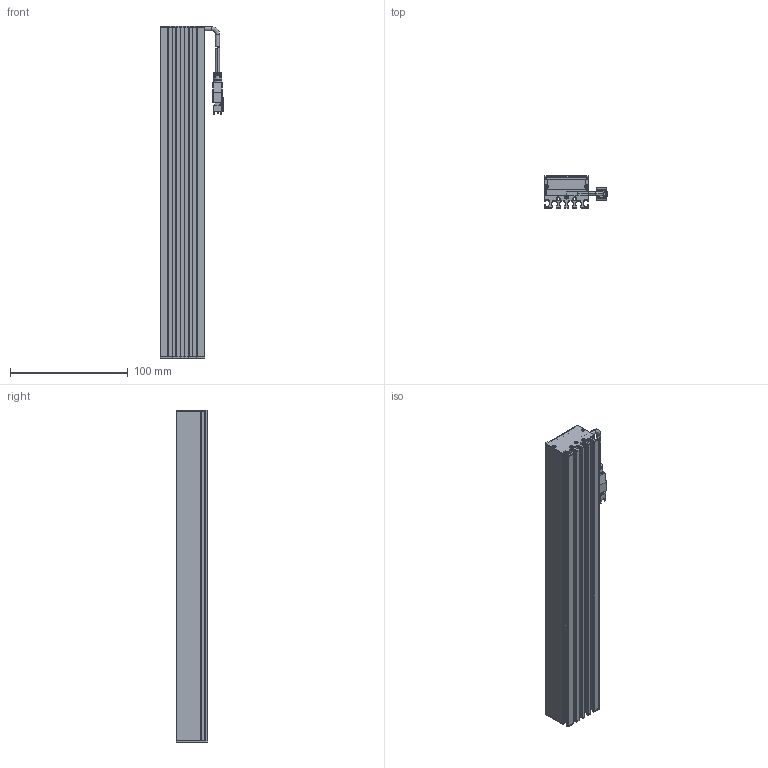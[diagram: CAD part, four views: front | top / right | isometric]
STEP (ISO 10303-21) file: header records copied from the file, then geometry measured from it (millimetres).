
FILE_DESCRIPTION (( 'STEP AP203' ), '1' );
FILE_NAME ('LBD-282L-潠眢3D芞.STEP', '2021-06-16T07:48:00', ( 'Windows 蚚誧' ), ( 'Organization' ), 'SwSTEP 2.0', 'SolidWorks 2018', '' );
FILE_SCHEMA (( 'CONFIG_CONTROL_DESIGN' ));
Length unit declared in the file: millimetre
Products named in the file (1): LBD-282L-潠眢3D芞
Bounding box: 54.16 x 27 x 282 mm (x, y, z)
Surface area: 109157.8 mm2 (no closed solid volume)
Topology: 0 solids, 8 shells, 889 faces, 2541 edges, 1653 vertices
Faces by surface type: plane 458, cylinder 369, cone 28, bspline 28, torus 6
Entity records: 29635 total; most frequent: CARTESIAN_POINT 5977, ORIENTED_EDGE 5003, DIRECTION 4968, EDGE_CURVE 2525, LINE 1676, VECTOR 1676, VERTEX_POINT 1653, AXIS2_PLACEMENT_3D 1646
